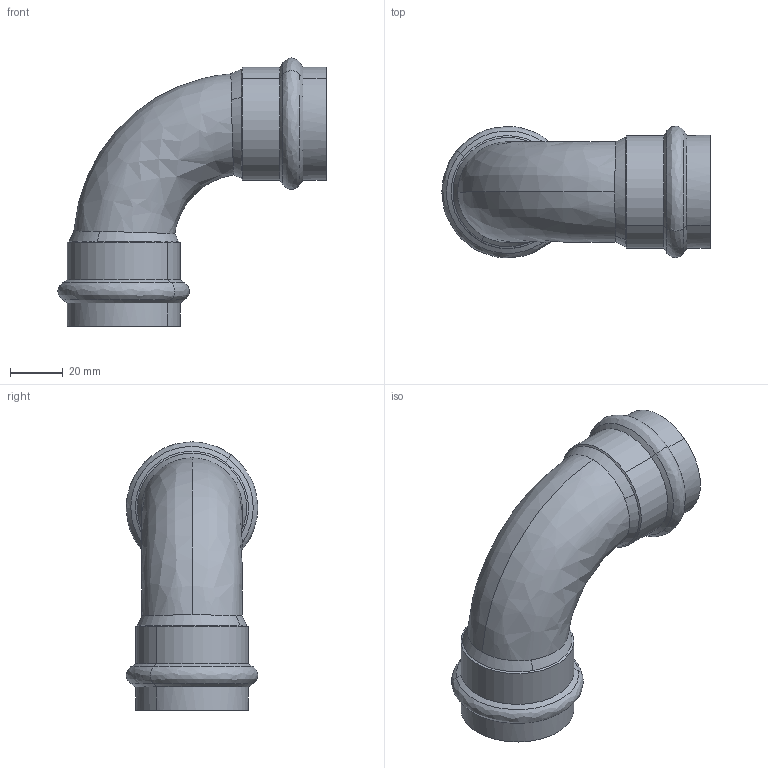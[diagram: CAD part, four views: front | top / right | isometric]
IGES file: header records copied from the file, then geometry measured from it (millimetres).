
Start section: 3D InterOp IGES (Version 25 0 1), Spatial Corp. Copyright (c) 1999-2007.
Global section: file name: pim0004432.igs; native system: Spatial Corp.; preprocessor: 3D InterOp ACIS/IGES; author: Cad-Pim; organization: TransMagic, Inc.; date: 20150430.071210; units: millimetre
Bounding box: 101.36 x 49.74 x 101.37 mm (x, y, z)
Volume: 107121.3 mm3; surface area: 28564.5 mm2
Topology: 1 solids, 1 shells, 38 faces, 105 edges, 71 vertices
Faces by surface type: cone 16, cylinder 12, bspline 10
